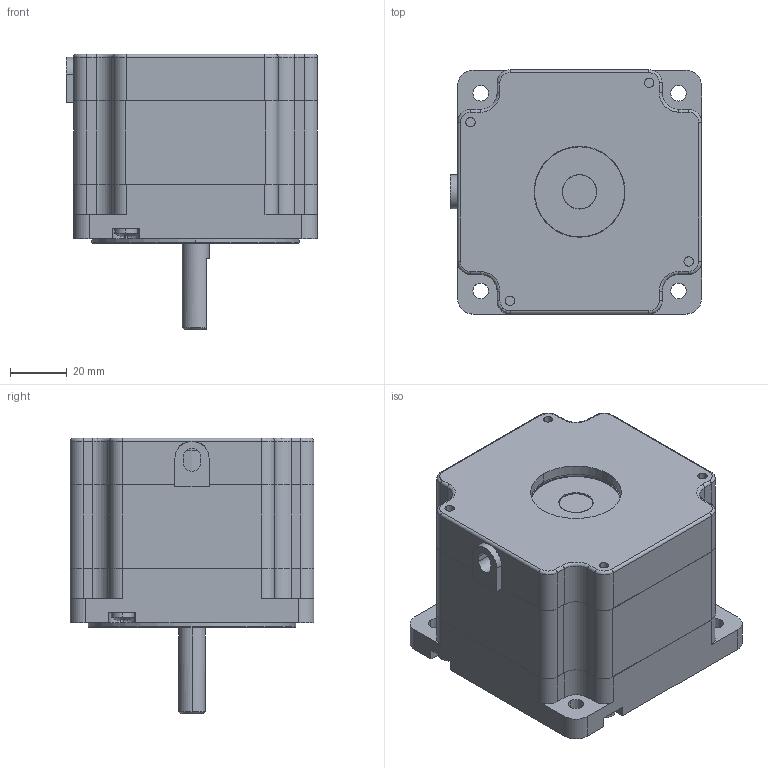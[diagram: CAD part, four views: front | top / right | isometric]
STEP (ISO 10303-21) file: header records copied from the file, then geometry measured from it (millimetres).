
FILE_DESCRIPTION (( 'STEP AP203' ), '1' );
FILE_NAME ('YK86HB65-04A.STEP', '2018-05-29T10:19:32', ( 'PC' ), ( '' ), 'SwSTEP 2.0', 'SolidWorks 2014', '' );
FILE_SCHEMA (( 'CONFIG_CONTROL_DESIGN' ));
Length unit declared in the file: millimetre
Products named in the file (11): 86挡圈; 86綴裔; YK86HB65-04A; 粣創2; 86隅赽; M4.0蹟佪; 86蛌赽; 86砎々菜; 86ヶ裔; 粣創杶; 粣創1
Assembly tree (13 placements, depth 2):
  YK86HB65-04A
    86隅赽
    86ヶ裔
    86綴裔
    86蛌赽
    粣創1
    粣創2
    86砎々菜
    86挡圈
    M4.0蹟佪  x4
    粣創杶
Bounding box: 88.4 x 85.9 x 97 mm (x, y, z)
Volume: 244741.1 mm3; surface area: 103504.5 mm2
Topology: 13 solids, 18 shells, 1536 faces, 4199 edges, 2760 vertices
Faces by surface type: plane 1280, cylinder 195, bspline 50, cone 11
Entity records: 48791 total; most frequent: CARTESIAN_POINT 10400, ORIENTED_EDGE 7998, DIRECTION 7204, EDGE_CURVE 4007, VECTOR 3480, LINE 3480, VERTEX_POINT 2661, AXIS2_PLACEMENT_3D 1862
